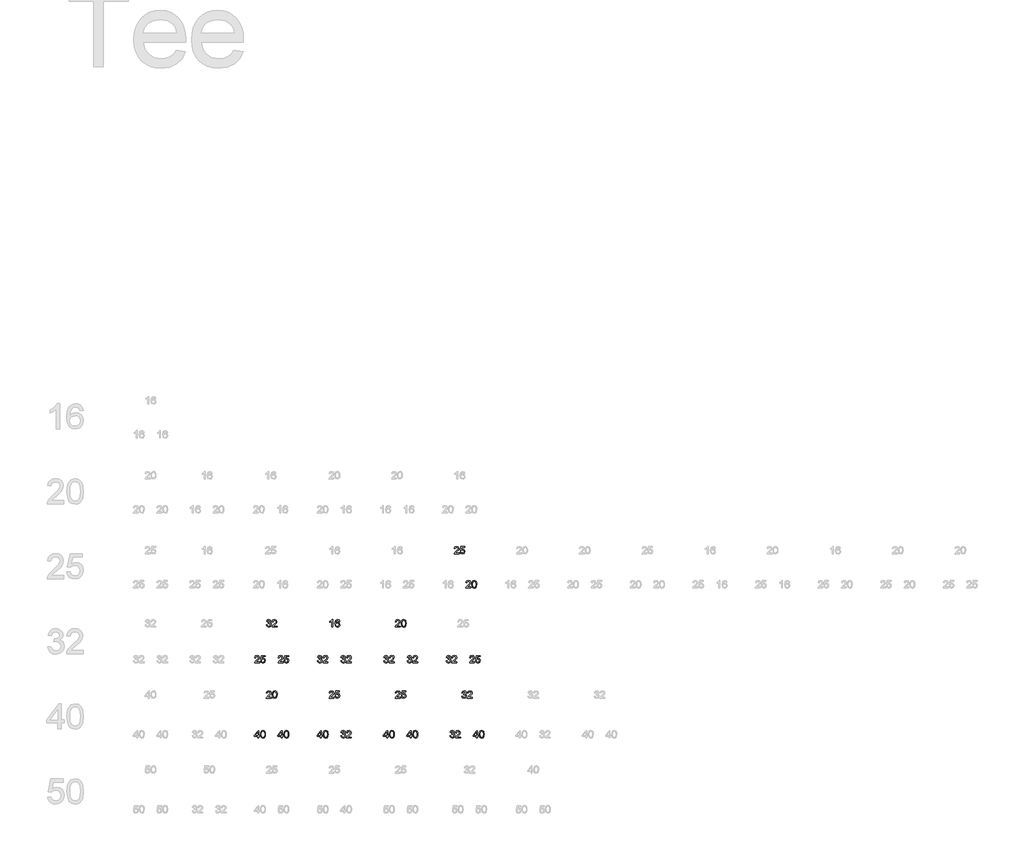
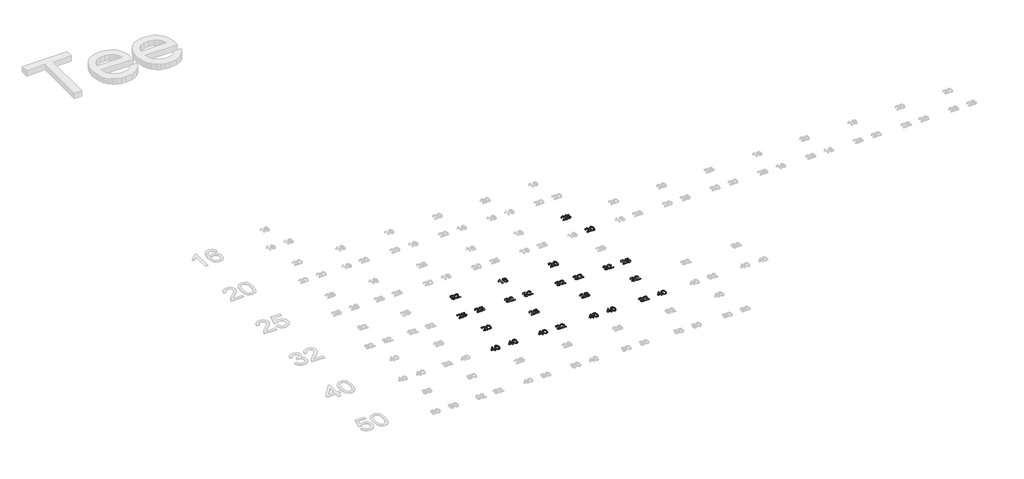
# One storey, part 18 of 26: 25 proxies.
"""IFC4 building model written with IfcOpenShell, lengths in millimetres."""

from ifc_helpers import new_model, si_unit, origin, origin_with_axes, place, context, project, spatial, polyline, outline, extrude, element, save

model = new_model("IFC4")

# Units and contexts
model_context = context("Model", 3, world=origin())
ifc_project = project(units=[si_unit("LENGTHUNIT", "METRE", prefix="MILLI")], contexts=[model_context])

# Site, building, storey
site = spatial("IfcSite", under=ifc_project)
building = spatial("IfcBuilding", under=site)
storey = spatial("IfcBuildingStorey", under=building, Name="Superpipe UFH", Elevation=0.0)

# Proxies
placement = place(None, origin())
element("IfcBuildingElementProxy", 1, Name="30mm Arial", ObjectType="30mm Arial", at=placement, inside=storey, context=model_context, shape_type="SweptSolid", body=[
    extrude(outline(polyline([(26862.5587739, 23692.297075), (26862.5587739, 23688.5299634), (26842.7814379, 23688.5299634), (26843.186108, 23691.1272103), (26845.4743341, 23695.1260876), (26850.1905812, 23699.4928469), (26856.6947349, 23705.7689137), (26858.3207733, 23710.0363449), (26856.7867054, 23713.4907568), (26852.7804705, 23714.8997448), (26848.6050098, 23713.5238662), (26847.0194384, 23709.7199663), (26843.2523268, 23710.1908553), (26846.1402005, 23716.4963527), (26852.8614045, 23718.6668565), (26859.6046815, 23716.2535506), (26862.087885, 23710.2644317), (26861.4183397, 23706.6922975), (26859.1926537, 23702.9987623), (26853.7958248, 23697.8373779), (26849.4621749, 23694.2137402), (26847.7625601, 23692.297075), (26862.5587739, 23692.297075)])), origin_with_axes(), (0.0, 0.0, 1.0), 2.0),
    extrude(outline(polyline([(26866.3258855, 23703.3556078), (26867.4332103, 23712.0265864), (26870.7220754, 23717.0261028), (26876.2145536, 23718.6668565), (26880.6144222, 23717.695648), (26883.6531275, 23714.896066), (26885.4189611, 23710.4373362), (26886.1032216, 23703.3556078), (26885.0069333, 23694.7214174), (26881.7291047, 23689.7108646), (26876.2145536, 23688.0590745), (26869.3278026, 23690.928554), (26866.3258855, 23703.3556078)]), holes=[polyline([(26870.0929972, 23703.3629655), (26871.8588308, 23694.0077263), (26876.2145536, 23691.8261861), (26880.5702764, 23694.015084), (26882.33611, 23703.3629655), (26880.6291375, 23712.6115188), (26876.1704077, 23714.8997448), (26871.9176919, 23712.8837515), (26870.0929972, 23703.3629655)])]), origin_with_axes(), (0.0, 0.0, 1.0), 2.0),
])
element("IfcBuildingElementProxy", 2, Name="30mm Arial", ObjectType="30mm Arial", at=placement, inside=storey, context=model_context, shape_type="SweptSolid", body=[
    extrude(outline(polyline([(26815.7369587, 23828.6157156), (26815.7369587, 23824.848604), (26795.9596227, 23824.848604), (26796.3642929, 23827.4458509), (26798.6525189, 23831.4447281), (26803.368766, 23835.8114874), (26809.8729197, 23842.0875543), (26811.4989581, 23846.3549854), (26809.9648902, 23849.8093973), (26805.9586553, 23851.2183854), (26801.7831946, 23849.8425067), (26800.1976232, 23846.0386069), (26796.4305116, 23846.5094959), (26799.3183853, 23852.8149932), (26806.0395893, 23854.985497), (26812.7828663, 23852.5721911), (26815.2660698, 23846.5830723), (26814.5965245, 23843.0109381), (26812.3708385, 23839.3174028), (26806.9740096, 23834.1560185), (26802.6403597, 23830.5323808), (26800.9407449, 23828.6157156), (26815.7369587, 23828.6157156)])), origin_with_axes(), (0.0, 0.0, 1.0), 2.0),
    extrude(outline(polyline([(26819.5040703, 23832.8537162), (26823.271182, 23833.3246051), (26825.1694531, 23829.4434501), (26829.1057904, 23828.1448267), (26833.8293952, 23829.9511272), (26835.5142948, 23834.7446296), (26833.936081, 23839.2180747), (26829.1646515, 23840.8588284), (26825.8573924, 23840.2039985), (26823.7420709, 23838.5043836), (26819.9749593, 23838.9752726), (26823.271182, 23854.5146081), (26837.8687395, 23854.5146081), (26837.8687395, 23850.7474964), (26826.3172449, 23850.7474964), (26824.7059218, 23842.4480786), (26830.216794, 23844.62594), (26836.6584078, 23841.9256862), (26839.2814064, 23834.9800741), (26836.919604, 23827.9903162), (26829.0910751, 23824.377715), (26822.4434475, 23826.6990504), (26819.5040703, 23832.8537162)])), origin_with_axes(), (0.0, 0.0, 1.0), 2.0),
])
element("IfcBuildingElementProxy", 3, Name="30mm Arial", ObjectType="30mm Arial", at=placement, inside=storey, context=model_context, shape_type="SweptSolid", body=[
    extrude(outline(polyline([(26017.968476, 23392.297075), (26017.968476, 23388.5299634), (25998.1911399, 23388.5299634), (25998.5958101, 23391.1272103), (26000.8840361, 23395.1260876), (26005.6002833, 23399.4928469), (26012.104437, 23405.7689137), (26013.7304754, 23410.0363449), (26012.1964075, 23413.4907568), (26008.1901725, 23414.8997448), (26004.0147119, 23413.5238662), (26002.4291405, 23409.7199663), (25998.6620289, 23410.1908553), (26001.5499025, 23416.4963527), (26008.2711066, 23418.6668565), (26015.0143836, 23416.2535506), (26017.497587, 23410.2644317), (26016.8280418, 23406.6922975), (26014.6023557, 23402.9987623), (26009.2055269, 23397.8373779), (26004.871877, 23394.2137402), (26003.1722621, 23392.297075), (26017.968476, 23392.297075)])), origin_with_axes(), (0.0, 0.0, 1.0), 2.0),
    extrude(outline(polyline([(26021.7355876, 23396.5350756), (26025.5026992, 23397.0059646), (26027.4009703, 23393.1248095), (26031.3373077, 23391.8261861), (26036.0609125, 23393.6324867), (26037.745812, 23398.4259891), (26036.1675983, 23402.8994341), (26031.3961688, 23404.5401878), (26028.0889097, 23403.8853579), (26025.9735882, 23402.1857431), (26022.2064766, 23402.656632), (26025.5026992, 23418.1959675), (26040.1002568, 23418.1959675), (26040.1002568, 23414.4288559), (26028.5487622, 23414.4288559), (26026.937439, 23406.1294381), (26032.4483113, 23408.3072995), (26038.889925, 23405.6070456), (26041.5129237, 23398.6614336), (26039.1511213, 23391.6716757), (26031.3225924, 23388.0590745), (26024.6749648, 23390.3804098), (26021.7355876, 23396.5350756)])), origin_with_axes(), (0.0, 0.0, 1.0), 2.0),
])
element("IfcBuildingElementProxy", 4, Name="30mm Arial", ObjectType="30mm Arial", at=placement, inside=storey, context=model_context, shape_type="SweptSolid", body=[
    extrude(outline(polyline([(26111.718476, 23392.297075), (26111.718476, 23388.5299634), (26091.9411399, 23388.5299634), (26092.3458101, 23391.1272103), (26094.6340361, 23395.1260876), (26099.3502833, 23399.4928469), (26105.854437, 23405.7689137), (26107.4804754, 23410.0363449), (26105.9464075, 23413.4907568), (26101.9401725, 23414.8997448), (26097.7647119, 23413.5238662), (26096.1791405, 23409.7199663), (26092.4120289, 23410.1908553), (26095.2999025, 23416.4963527), (26102.0211066, 23418.6668565), (26108.7643836, 23416.2535506), (26111.247587, 23410.2644317), (26110.5780418, 23406.6922975), (26108.3523557, 23402.9987623), (26102.9555269, 23397.8373779), (26098.621877, 23394.2137402), (26096.9222621, 23392.297075), (26111.718476, 23392.297075)])), origin_with_axes(), (0.0, 0.0, 1.0), 2.0),
    extrude(outline(polyline([(26115.4855876, 23396.5350756), (26119.2526992, 23397.0059646), (26121.1509703, 23393.1248095), (26125.0873077, 23391.8261861), (26129.8109125, 23393.6324867), (26131.495812, 23398.4259891), (26129.9175983, 23402.8994341), (26125.1461688, 23404.5401878), (26121.8389097, 23403.8853579), (26119.7235882, 23402.1857431), (26115.9564766, 23402.656632), (26119.2526992, 23418.1959675), (26133.8502568, 23418.1959675), (26133.8502568, 23414.4288559), (26122.2987622, 23414.4288559), (26120.687439, 23406.1294381), (26126.1983113, 23408.3072995), (26132.639925, 23405.6070456), (26135.2629237, 23398.6614336), (26132.9011213, 23391.6716757), (26125.0725924, 23388.0590745), (26118.4249648, 23390.3804098), (26115.4855876, 23396.5350756)])), origin_with_axes(), (0.0, 0.0, 1.0), 2.0),
])
element("IfcBuildingElementProxy", 5, Name="30mm Arial", ObjectType="30mm Arial", at=placement, inside=storey, context=model_context, shape_type="SweptSolid", body=[
    extrude(outline(polyline([(26045.5902137, 23540.3537162), (26049.3573253, 23540.8246051), (26051.4358586, 23536.8588372), (26055.3243713, 23535.6448267), (26059.9008233, 23537.3150109), (26061.6004381, 23541.4500045), (26059.9155386, 23545.3458749), (26055.6333921, 23546.8873004), (26052.9919994, 23546.4752726), (26053.4113849, 23550.2423842), (26058.2895002, 23551.2798114), (26060.1877712, 23554.6054647), (26058.8118926, 23557.5521995), (26055.2655102, 23558.7183854), (26051.6749819, 23557.541163), (26049.8282143, 23554.0094959), (26046.0611026, 23554.4803848), (26049.1439538, 23560.3885696), (26055.1330726, 23562.485497), (26059.6764153, 23561.4517486), (26062.8549157, 23558.6264149), (26063.9548829, 23554.8261939), (26062.910098, 23551.3533878), (26059.8198893, 23548.8591479), (26063.9254523, 23546.283974), (26065.3675497, 23541.3837858), (26062.4833549, 23534.6441876), (26055.1919338, 23531.877715), (26048.5847731, 23534.2395174), (26045.5902137, 23540.3537162)])), origin_with_axes(), (0.0, 0.0, 1.0), 2.0),
    extrude(outline(polyline([(26087.9702195, 23536.1157156), (26087.9702195, 23532.348604), (26068.1928835, 23532.348604), (26068.5975537, 23534.9458509), (26070.8857797, 23538.9447281), (26075.6020268, 23543.3114874), (26082.1061805, 23549.5875543), (26083.7322189, 23553.8549854), (26082.198151, 23557.3093973), (26078.1919161, 23558.7183854), (26074.0164554, 23557.3425067), (26072.430884, 23553.5386069), (26068.6637724, 23554.0094959), (26071.5516461, 23560.3149932), (26078.2728501, 23562.485497), (26085.0161271, 23560.0721911), (26087.4993306, 23554.0830723), (26086.8297853, 23550.5109381), (26084.6040993, 23546.8174028), (26079.2072704, 23541.6560185), (26074.8736205, 23538.0323808), (26073.1740057, 23536.1157156), (26087.9702195, 23536.1157156)])), origin_with_axes(), (0.0, 0.0, 1.0), 2.0),
])
element("IfcBuildingElementProxy", 6, Name="30mm Arial", ObjectType="30mm Arial", at=placement, inside=storey, context=model_context, shape_type="SweptSolid", body=[
    extrude(outline(polyline([(26249.2222275, 23396.5350756), (26252.9893391, 23397.0059646), (26255.0678724, 23393.0401967), (26258.9563851, 23391.8261861), (26263.5328371, 23393.4963703), (26265.2324519, 23397.631364), (26263.5475524, 23401.5272343), (26259.265406, 23403.0686599), (26256.6240132, 23402.656632), (26257.0433987, 23406.4237437), (26261.921514, 23407.4611709), (26263.8197851, 23410.7868241), (26262.4439064, 23413.7335589), (26258.897524, 23414.8997448), (26255.3069957, 23413.7225224), (26253.4602281, 23410.1908553), (26249.6931164, 23410.6617442), (26252.7759676, 23416.5699291), (26258.7650865, 23418.6668565), (26263.3084291, 23417.6331081), (26266.4869295, 23414.8077743), (26267.5868967, 23411.0075533), (26266.5421118, 23407.5347473), (26263.4519031, 23405.0405074), (26267.5574661, 23402.4653334), (26268.9995636, 23397.5651452), (26266.1153687, 23390.8255471), (26258.8239476, 23388.0590745), (26252.2167869, 23390.4208769), (26249.2222275, 23396.5350756)])), origin_with_axes(), (0.0, 0.0, 1.0), 2.0),
    extrude(outline(polyline([(26291.6022333, 23392.297075), (26291.6022333, 23388.5299634), (26271.8248973, 23388.5299634), (26272.2295675, 23391.1272103), (26274.5177935, 23395.1260876), (26279.2340407, 23399.4928469), (26285.7381943, 23405.7689137), (26287.3642328, 23410.0363449), (26285.8301648, 23413.4907568), (26281.8239299, 23414.8997448), (26277.6484693, 23413.5238662), (26276.0628979, 23409.7199663), (26272.2957862, 23410.1908553), (26275.1836599, 23416.4963527), (26281.9048639, 23418.6668565), (26288.6481409, 23416.2535506), (26291.1313444, 23410.2644317), (26290.4617992, 23406.6922975), (26288.2361131, 23402.9987623), (26282.8392842, 23397.8373779), (26278.5056343, 23394.2137402), (26276.8060195, 23392.297075), (26291.6022333, 23392.297075)])), origin_with_axes(), (0.0, 0.0, 1.0), 2.0),
])
element("IfcBuildingElementProxy", 7, Name="30mm Arial", ObjectType="30mm Arial", at=placement, inside=storey, context=model_context, shape_type="SweptSolid", body=[
    extrude(outline(polyline([(26342.9722275, 23396.5350756), (26346.7393391, 23397.0059646), (26348.8178724, 23393.0401967), (26352.7063851, 23391.8261861), (26357.2828371, 23393.4963703), (26358.9824519, 23397.631364), (26357.2975524, 23401.5272343), (26353.015406, 23403.0686599), (26350.3740132, 23402.656632), (26350.7933987, 23406.4237437), (26355.671514, 23407.4611709), (26357.5697851, 23410.7868241), (26356.1939064, 23413.7335589), (26352.647524, 23414.8997448), (26349.0569957, 23413.7225224), (26347.2102281, 23410.1908553), (26343.4431164, 23410.6617442), (26346.5259676, 23416.5699291), (26352.5150865, 23418.6668565), (26357.0584291, 23417.6331081), (26360.2369295, 23414.8077743), (26361.3368967, 23411.0075533), (26360.2921118, 23407.5347473), (26357.2019031, 23405.0405074), (26361.3074661, 23402.4653334), (26362.7495636, 23397.5651452), (26359.8653687, 23390.8255471), (26352.5739476, 23388.0590745), (26345.9667869, 23390.4208769), (26342.9722275, 23396.5350756)])), origin_with_axes(), (0.0, 0.0, 1.0), 2.0),
    extrude(outline(polyline([(26385.3522333, 23392.297075), (26385.3522333, 23388.5299634), (26365.5748973, 23388.5299634), (26365.9795675, 23391.1272103), (26368.2677935, 23395.1260876), (26372.9840407, 23399.4928469), (26379.4881943, 23405.7689137), (26381.1142328, 23410.0363449), (26379.5801648, 23413.4907568), (26375.5739299, 23414.8997448), (26371.3984693, 23413.5238662), (26369.8128979, 23409.7199663), (26366.0457862, 23410.1908553), (26368.9336599, 23416.4963527), (26375.6548639, 23418.6668565), (26382.3981409, 23416.2535506), (26384.8813444, 23410.2644317), (26384.2117992, 23406.6922975), (26381.9861131, 23402.9987623), (26376.5892842, 23397.8373779), (26372.2556343, 23394.2137402), (26370.5560195, 23392.297075), (26385.3522333, 23392.297075)])), origin_with_axes(), (0.0, 0.0, 1.0), 2.0),
])
element("IfcBuildingElementProxy", 8, Name="30mm Arial", ObjectType="30mm Arial", at=placement, inside=storey, context=model_context, shape_type="SweptSolid", body=[
    extrude(outline(polyline([(26310.2770809, 23532.348604), (26306.5099693, 23532.348604), (26306.5099693, 23555.8341905), (26302.9415139, 23553.292126), (26298.975746, 23551.390176), (26298.975746, 23554.9512738), (26304.4976548, 23558.4755833), (26307.8490597, 23562.485497), (26310.2770809, 23562.485497), (26310.2770809, 23532.348604)])), origin_with_axes(), (0.0, 0.0, 1.0), 2.0),
    extrude(outline(polyline([(26338.5304181, 23554.4803848), (26334.7633065, 23554.0094959), (26333.3359244, 23557.1512081), (26329.5614551, 23558.7183854), (26326.1622255, 23557.806038), (26323.5907303, 23554.3810567), (26322.5201937, 23547.6672103), (26325.8421681, 23550.6728062), (26329.9587677, 23551.6550511), (26336.3599144, 23548.9695125), (26339.0013071, 23542.0312581), (26337.757866, 23536.8330855), (26334.3365634, 23533.1542655), (26329.399587, 23531.877715), (26321.7218898, 23535.2622294), (26318.7530821, 23546.4164115), (26322.0493048, 23559.0494792), (26329.7968996, 23562.485497), (26335.7492303, 23560.3591391), (26338.5304181, 23554.4803848)]), holes=[polyline([(26322.5201937, 23542.0901192), (26323.392074, 23538.8270059), (26325.7097306, 23536.4578459), (26329.1052814, 23535.6448267), (26333.5456171, 23537.3297262), (26335.2341955, 23541.9061782), (26333.56769, 23546.2876528), (26328.950771, 23547.8879395), (26324.3927131, 23546.2876528), (26322.5201937, 23542.0901192)])]), origin_with_axes(), (0.0, 0.0, 1.0), 2.0),
])
element("IfcBuildingElementProxy", 9, Name="30mm Arial", ObjectType="30mm Arial", at=placement, inside=storey, context=model_context, shape_type="SweptSolid", body=[
    extrude(outline(polyline([(26514.2222275, 23396.5350756), (26517.9893391, 23397.0059646), (26520.0678724, 23393.0401967), (26523.9563851, 23391.8261861), (26528.5328371, 23393.4963703), (26530.2324519, 23397.631364), (26528.5475524, 23401.5272343), (26524.265406, 23403.0686599), (26521.6240132, 23402.656632), (26522.0433987, 23406.4237437), (26526.921514, 23407.4611709), (26528.8197851, 23410.7868241), (26527.4439064, 23413.7335589), (26523.897524, 23414.8997448), (26520.3069957, 23413.7225224), (26518.4602281, 23410.1908553), (26514.6931164, 23410.6617442), (26517.7759676, 23416.5699291), (26523.7650865, 23418.6668565), (26528.3084291, 23417.6331081), (26531.4869295, 23414.8077743), (26532.5868967, 23411.0075533), (26531.5421118, 23407.5347473), (26528.4519031, 23405.0405074), (26532.5574661, 23402.4653334), (26533.9995636, 23397.5651452), (26531.1153687, 23390.8255471), (26523.8239476, 23388.0590745), (26517.2167869, 23390.4208769), (26514.2222275, 23396.5350756)])), origin_with_axes(), (0.0, 0.0, 1.0), 2.0),
    extrude(outline(polyline([(26556.6022333, 23392.297075), (26556.6022333, 23388.5299634), (26536.8248973, 23388.5299634), (26537.2295675, 23391.1272103), (26539.5177935, 23395.1260876), (26544.2340407, 23399.4928469), (26550.7381943, 23405.7689137), (26552.3642328, 23410.0363449), (26550.8301648, 23413.4907568), (26546.8239299, 23414.8997448), (26542.6484693, 23413.5238662), (26541.0628979, 23409.7199663), (26537.2957862, 23410.1908553), (26540.1836599, 23416.4963527), (26546.9048639, 23418.6668565), (26553.6481409, 23416.2535506), (26556.1313444, 23410.2644317), (26555.4617992, 23406.6922975), (26553.2361131, 23402.9987623), (26547.8392842, 23397.8373779), (26543.5056343, 23394.2137402), (26541.8060195, 23392.297075), (26556.6022333, 23392.297075)])), origin_with_axes(), (0.0, 0.0, 1.0), 2.0),
])
element("IfcBuildingElementProxy", 10, Name="30mm Arial", ObjectType="30mm Arial", at=placement, inside=storey, context=model_context, shape_type="SweptSolid", body=[
    extrude(outline(polyline([(26607.9722275, 23396.5350756), (26611.7393391, 23397.0059646), (26613.8178724, 23393.0401967), (26617.7063851, 23391.8261861), (26622.2828371, 23393.4963703), (26623.9824519, 23397.631364), (26622.2975524, 23401.5272343), (26618.015406, 23403.0686599), (26615.3740132, 23402.656632), (26615.7933987, 23406.4237437), (26620.671514, 23407.4611709), (26622.5697851, 23410.7868241), (26621.1939064, 23413.7335589), (26617.647524, 23414.8997448), (26614.0569957, 23413.7225224), (26612.2102281, 23410.1908553), (26608.4431164, 23410.6617442), (26611.5259676, 23416.5699291), (26617.5150865, 23418.6668565), (26622.0584291, 23417.6331081), (26625.2369295, 23414.8077743), (26626.3368967, 23411.0075533), (26625.2921118, 23407.5347473), (26622.2019031, 23405.0405074), (26626.3074661, 23402.4653334), (26627.7495636, 23397.5651452), (26624.8653687, 23390.8255471), (26617.5739476, 23388.0590745), (26610.9667869, 23390.4208769), (26607.9722275, 23396.5350756)])), origin_with_axes(), (0.0, 0.0, 1.0), 2.0),
    extrude(outline(polyline([(26650.3522333, 23392.297075), (26650.3522333, 23388.5299634), (26630.5748973, 23388.5299634), (26630.9795675, 23391.1272103), (26633.2677935, 23395.1260876), (26637.9840407, 23399.4928469), (26644.4881943, 23405.7689137), (26646.1142328, 23410.0363449), (26644.5801648, 23413.4907568), (26640.5739299, 23414.8997448), (26636.3984693, 23413.5238662), (26634.8128979, 23409.7199663), (26631.0457862, 23410.1908553), (26633.9336599, 23416.4963527), (26640.6548639, 23418.6668565), (26647.3981409, 23416.2535506), (26649.8813444, 23410.2644317), (26649.2117992, 23406.6922975), (26646.9861131, 23402.9987623), (26641.5892842, 23397.8373779), (26637.2556343, 23394.2137402), (26635.5560195, 23392.297075), (26650.3522333, 23392.297075)])), origin_with_axes(), (0.0, 0.0, 1.0), 2.0),
])
element("IfcBuildingElementProxy", 11, Name="30mm Arial", ObjectType="30mm Arial", at=placement, inside=storey, context=model_context, shape_type="SweptSolid", body=[
    extrude(outline(polyline([(26580.4568594, 23536.1157156), (26580.4568594, 23532.348604), (26560.6795233, 23532.348604), (26561.0841935, 23534.9458509), (26563.3724196, 23538.9447281), (26568.0886667, 23543.3114874), (26574.5928204, 23549.5875543), (26576.2188588, 23553.8549854), (26574.6847909, 23557.3093973), (26570.678556, 23558.7183854), (26566.5030953, 23557.3425067), (26564.9175239, 23553.5386069), (26561.1504123, 23554.0094959), (26564.038286, 23560.3149932), (26570.75949, 23562.485497), (26577.502767, 23560.0721911), (26579.9859705, 23554.0830723), (26579.3164252, 23550.5109381), (26577.0907392, 23546.8174028), (26571.6939103, 23541.6560185), (26567.3602604, 23538.0323808), (26565.6606456, 23536.1157156), (26580.4568594, 23536.1157156)])), origin_with_axes(), (0.0, 0.0, 1.0), 2.0),
    extrude(outline(polyline([(26584.223971, 23547.1742484), (26585.3312958, 23555.845227), (26588.6201609, 23560.8447433), (26594.1126391, 23562.485497), (26598.5125077, 23561.5142886), (26601.551213, 23558.7147066), (26603.3170466, 23554.2559768), (26604.0013071, 23547.1742484), (26602.9050188, 23538.540058), (26599.6271902, 23533.5295052), (26594.1126391, 23531.877715), (26587.2258881, 23534.7471946), (26584.223971, 23547.1742484)]), holes=[polyline([(26587.9910827, 23547.181606), (26589.7569162, 23537.8263669), (26594.1126391, 23535.6448267), (26598.4683619, 23537.8337245), (26600.2341955, 23547.181606), (26598.527223, 23556.4301594), (26594.0684932, 23558.7183854), (26589.8157774, 23556.7023921), (26587.9910827, 23547.181606)])]), origin_with_axes(), (0.0, 0.0, 1.0), 2.0),
])
element("IfcBuildingElementProxy", 12, Name="30mm Arial", ObjectType="30mm Arial", at=placement, inside=storey, context=model_context, shape_type="SweptSolid", body=[
    extrude(outline(polyline([(26010.9051417, 23088.5299634), (26010.9051417, 23095.5932977), (25997.249362, 23095.5932977), (25997.249362, 23099.3604094), (26011.8469196, 23118.1959675), (26014.6722533, 23118.1959675), (26014.6722533, 23099.3604094), (26018.4393649, 23099.3604094), (26018.4393649, 23095.5932977), (26014.6722533, 23095.5932977), (26014.6722533, 23088.5299634), (26010.9051417, 23088.5299634)]), holes=[polyline([(26010.9051417, 23099.3604094), (26010.9051417, 23111.0001957), (26001.8846752, 23099.3604094), (26010.9051417, 23099.3604094)])]), origin_with_axes(), (0.0, 0.0, 1.0), 2.0),
    extrude(outline(polyline([(26021.7355876, 23103.3556078), (26022.8429124, 23112.0265864), (26026.1317775, 23117.0261028), (26031.6242556, 23118.6668565), (26036.0241243, 23117.695648), (26039.0628296, 23114.896066), (26040.8286632, 23110.4373362), (26041.5129237, 23103.3556078), (26040.4166353, 23094.7214174), (26037.1388068, 23089.7108646), (26031.6242556, 23088.0590745), (26024.7375047, 23090.928554), (26021.7355876, 23103.3556078)]), holes=[polyline([(26025.5026992, 23103.3629655), (26027.2685328, 23094.0077263), (26031.6242556, 23091.8261861), (26035.9799785, 23094.015084), (26037.745812, 23103.3629655), (26036.0388396, 23112.6115188), (26031.5801098, 23114.8997448), (26027.3273939, 23112.8837515), (26025.5026992, 23103.3629655)])]), origin_with_axes(), (0.0, 0.0, 1.0), 2.0),
])
element("IfcBuildingElementProxy", 13, Name="30mm Arial", ObjectType="30mm Arial", at=placement, inside=storey, context=model_context, shape_type="SweptSolid", body=[
    extrude(outline(polyline([(26104.6551417, 23088.5299634), (26104.6551417, 23095.5932977), (26090.999362, 23095.5932977), (26090.999362, 23099.3604094), (26105.5969196, 23118.1959675), (26108.4222533, 23118.1959675), (26108.4222533, 23099.3604094), (26112.1893649, 23099.3604094), (26112.1893649, 23095.5932977), (26108.4222533, 23095.5932977), (26108.4222533, 23088.5299634), (26104.6551417, 23088.5299634)]), holes=[polyline([(26104.6551417, 23099.3604094), (26104.6551417, 23111.0001957), (26095.6346752, 23099.3604094), (26104.6551417, 23099.3604094)])]), origin_with_axes(), (0.0, 0.0, 1.0), 2.0),
    extrude(outline(polyline([(26115.4855876, 23103.3556078), (26116.5929124, 23112.0265864), (26119.8817775, 23117.0261028), (26125.3742556, 23118.6668565), (26129.7741243, 23117.695648), (26132.8128296, 23114.896066), (26134.5786632, 23110.4373362), (26135.2629237, 23103.3556078), (26134.1666353, 23094.7214174), (26130.8888067, 23089.7108646), (26125.3742556, 23088.0590745), (26118.4875047, 23090.928554), (26115.4855876, 23103.3556078)]), holes=[polyline([(26119.2526992, 23103.3629655), (26121.0185328, 23094.0077263), (26125.3742556, 23091.8261861), (26129.7299785, 23094.015084), (26131.495812, 23103.3629655), (26129.7888396, 23112.6115188), (26125.3301098, 23114.8997448), (26121.0773939, 23112.8837515), (26119.2526992, 23103.3629655)])]), origin_with_axes(), (0.0, 0.0, 1.0), 2.0),
])
element("IfcBuildingElementProxy", 14, Name="30mm Arial", ObjectType="30mm Arial", at=placement, inside=storey, context=model_context, shape_type="SweptSolid", body=[
    extrude(outline(polyline([(26064.8966608, 23251.1157156), (26064.8966608, 23247.348604), (26045.1193247, 23247.348604), (26045.5239949, 23249.9458509), (26047.8122209, 23253.9447281), (26052.5284681, 23258.3114874), (26059.0326218, 23264.5875543), (26060.6586602, 23268.8549854), (26059.1245923, 23272.3093973), (26055.1183574, 23273.7183854), (26050.9428967, 23272.3425067), (26049.3573253, 23268.5386069), (26045.5902137, 23269.0094959), (26048.4780873, 23275.3149932), (26055.1992914, 23277.485497), (26061.9425684, 23275.0721911), (26064.4257718, 23269.0830723), (26063.7562266, 23265.5109381), (26061.5305405, 23261.8174028), (26056.1337117, 23256.6560185), (26051.8000618, 23253.0323808), (26050.1004469, 23251.1157156), (26064.8966608, 23251.1157156)])), origin_with_axes(), (0.0, 0.0, 1.0), 2.0),
    extrude(outline(polyline([(26068.6637724, 23262.1742484), (26069.7710972, 23270.845227), (26073.0599623, 23275.8447433), (26078.5524404, 23277.485497), (26082.9523091, 23276.5142886), (26085.9910144, 23273.7147066), (26087.756848, 23269.2559768), (26088.4411085, 23262.1742484), (26087.3448201, 23253.540058), (26084.0669916, 23248.5295052), (26078.5524404, 23246.877715), (26071.6656895, 23249.7471946), (26068.6637724, 23262.1742484)]), holes=[polyline([(26072.430884, 23262.181606), (26074.1967176, 23252.8263669), (26078.5524404, 23250.6448267), (26082.9081633, 23252.8337245), (26084.6739968, 23262.181606), (26082.9670244, 23271.4301594), (26078.5082946, 23273.7183854), (26074.2555787, 23271.7023921), (26072.430884, 23262.181606)])]), origin_with_axes(), (0.0, 0.0, 1.0), 2.0),
])
element("IfcBuildingElementProxy", 15, Name="30mm Arial", ObjectType="30mm Arial", at=placement, inside=storey, context=model_context, shape_type="SweptSolid", body=[
    extrude(outline(polyline([(26261.4653403, 23088.5299634), (26261.4653403, 23095.5932977), (26247.8095606, 23095.5932977), (26247.8095606, 23099.3604094), (26262.4071182, 23118.1959675), (26265.2324519, 23118.1959675), (26265.2324519, 23099.3604094), (26268.9995636, 23099.3604094), (26268.9995636, 23095.5932977), (26265.2324519, 23095.5932977), (26265.2324519, 23088.5299634), (26261.4653403, 23088.5299634)]), holes=[polyline([(26261.4653403, 23099.3604094), (26261.4653403, 23111.0001957), (26252.4448738, 23099.3604094), (26261.4653403, 23099.3604094)])]), origin_with_axes(), (0.0, 0.0, 1.0), 2.0),
    extrude(outline(polyline([(26272.2957862, 23103.3556078), (26273.403111, 23112.0265864), (26276.6919761, 23117.0261028), (26282.1844543, 23118.6668565), (26286.5843229, 23117.695648), (26289.6230282, 23114.896066), (26291.3888618, 23110.4373362), (26292.0731223, 23103.3556078), (26290.9768339, 23094.7214174), (26287.6990054, 23089.7108646), (26282.1844543, 23088.0590745), (26275.2977033, 23090.928554), (26272.2957862, 23103.3556078)]), holes=[polyline([(26276.0628979, 23103.3629655), (26277.8287314, 23094.0077263), (26282.1844543, 23091.8261861), (26286.5401771, 23094.015084), (26288.3060107, 23103.3629655), (26286.5990382, 23112.6115188), (26282.1403084, 23114.8997448), (26277.8875926, 23112.8837515), (26276.0628979, 23103.3629655)])]), origin_with_axes(), (0.0, 0.0, 1.0), 2.0),
])
element("IfcBuildingElementProxy", 16, Name="30mm Arial", ObjectType="30mm Arial", at=placement, inside=storey, context=model_context, shape_type="SweptSolid", body=[
    extrude(outline(polyline([(26342.9722275, 23096.5350756), (26346.7393391, 23097.0059646), (26348.8178724, 23093.0401967), (26352.7063851, 23091.8261861), (26357.2828371, 23093.4963703), (26358.9824519, 23097.631364), (26357.2975524, 23101.5272343), (26353.015406, 23103.0686599), (26350.3740132, 23102.656632), (26350.7933987, 23106.4237437), (26355.671514, 23107.4611709), (26357.5697851, 23110.7868241), (26356.1939064, 23113.7335589), (26352.647524, 23114.8997448), (26349.0569957, 23113.7225224), (26347.2102281, 23110.1908553), (26343.4431164, 23110.6617442), (26346.5259676, 23116.5699291), (26352.5150865, 23118.6668565), (26357.0584291, 23117.6331081), (26360.2369295, 23114.8077743), (26361.3368967, 23111.0075533), (26360.2921118, 23107.5347473), (26357.2019031, 23105.0405074), (26361.3074661, 23102.4653334), (26362.7495636, 23097.5651452), (26359.8653687, 23090.8255471), (26352.5739476, 23088.0590745), (26345.9667869, 23090.4208769), (26342.9722275, 23096.5350756)])), origin_with_axes(), (0.0, 0.0, 1.0), 2.0),
    extrude(outline(polyline([(26385.3522333, 23092.297075), (26385.3522333, 23088.5299634), (26365.5748973, 23088.5299634), (26365.9795675, 23091.1272103), (26368.2677935, 23095.1260876), (26372.9840407, 23099.4928469), (26379.4881943, 23105.7689137), (26381.1142328, 23110.0363449), (26379.5801648, 23113.4907568), (26375.5739299, 23114.8997448), (26371.3984693, 23113.5238662), (26369.8128979, 23109.7199663), (26366.0457862, 23110.1908553), (26368.9336599, 23116.4963527), (26375.6548639, 23118.6668565), (26382.3981409, 23116.2535506), (26384.8813444, 23110.2644317), (26384.2117992, 23106.6922975), (26381.9861131, 23102.9987623), (26376.5892842, 23097.8373779), (26372.2556343, 23094.2137402), (26370.5560195, 23092.297075), (26385.3522333, 23092.297075)])), origin_with_axes(), (0.0, 0.0, 1.0), 2.0),
])
element("IfcBuildingElementProxy", 17, Name="30mm Arial", ObjectType="30mm Arial", at=placement, inside=storey, context=model_context, shape_type="SweptSolid", body=[
    extrude(outline(polyline([(26315.4568594, 23251.1157156), (26315.4568594, 23247.348604), (26295.6795233, 23247.348604), (26296.0841935, 23249.9458509), (26298.3724196, 23253.9447281), (26303.0886667, 23258.3114874), (26309.5928204, 23264.5875543), (26311.2188588, 23268.8549854), (26309.6847909, 23272.3093973), (26305.678556, 23273.7183854), (26301.5030953, 23272.3425067), (26299.9175239, 23268.5386069), (26296.1504123, 23269.0094959), (26299.038286, 23275.3149932), (26305.75949, 23277.485497), (26312.502767, 23275.0721911), (26314.9859705, 23269.0830723), (26314.3164252, 23265.5109381), (26312.0907392, 23261.8174028), (26306.6939103, 23256.6560185), (26302.3602604, 23253.0323808), (26300.6606456, 23251.1157156), (26315.4568594, 23251.1157156)])), origin_with_axes(), (0.0, 0.0, 1.0), 2.0),
    extrude(outline(polyline([(26319.223971, 23255.3537162), (26322.9910827, 23255.8246051), (26324.8893538, 23251.9434501), (26328.8256911, 23250.6448267), (26333.5492959, 23252.4511272), (26335.2341955, 23257.2446296), (26333.6559817, 23261.7180747), (26328.8845522, 23263.3588284), (26325.5772931, 23262.7039985), (26323.4619716, 23261.0043836), (26319.69486, 23261.4752726), (26322.9910827, 23277.0146081), (26337.5886402, 23277.0146081), (26337.5886402, 23273.2474964), (26326.0371456, 23273.2474964), (26324.4258225, 23264.9480786), (26329.9366947, 23267.12594), (26336.3783085, 23264.4256862), (26339.0013071, 23257.4800741), (26336.6395047, 23250.4903162), (26328.8109758, 23246.877715), (26322.1633482, 23249.1990504), (26319.223971, 23255.3537162)])), origin_with_axes(), (0.0, 0.0, 1.0), 2.0),
])
element("IfcBuildingElementProxy", 18, Name="30mm Arial", ObjectType="30mm Arial", at=placement, inside=storey, context=model_context, shape_type="SweptSolid", body=[
    extrude(outline(polyline([(26526.4653403, 23088.5299634), (26526.4653403, 23095.5932977), (26512.8095606, 23095.5932977), (26512.8095606, 23099.3604094), (26527.4071182, 23118.1959675), (26530.2324519, 23118.1959675), (26530.2324519, 23099.3604094), (26533.9995636, 23099.3604094), (26533.9995636, 23095.5932977), (26530.2324519, 23095.5932977), (26530.2324519, 23088.5299634), (26526.4653403, 23088.5299634)]), holes=[polyline([(26526.4653403, 23099.3604094), (26526.4653403, 23111.0001957), (26517.4448738, 23099.3604094), (26526.4653403, 23099.3604094)])]), origin_with_axes(), (0.0, 0.0, 1.0), 2.0),
    extrude(outline(polyline([(26537.2957862, 23103.3556078), (26538.403111, 23112.0265864), (26541.6919761, 23117.0261028), (26547.1844543, 23118.6668565), (26551.5843229, 23117.695648), (26554.6230282, 23114.896066), (26556.3888618, 23110.4373362), (26557.0731223, 23103.3556078), (26555.9768339, 23094.7214174), (26552.6990054, 23089.7108646), (26547.1844543, 23088.0590745), (26540.2977033, 23090.928554), (26537.2957862, 23103.3556078)]), holes=[polyline([(26541.0628979, 23103.3629655), (26542.8287314, 23094.0077263), (26547.1844543, 23091.8261861), (26551.5401771, 23094.015084), (26553.3060107, 23103.3629655), (26551.5990382, 23112.6115188), (26547.1403084, 23114.8997448), (26542.8875926, 23112.8837515), (26541.0628979, 23103.3629655)])]), origin_with_axes(), (0.0, 0.0, 1.0), 2.0),
])
element("IfcBuildingElementProxy", 19, Name="30mm Arial", ObjectType="30mm Arial", at=placement, inside=storey, context=model_context, shape_type="SweptSolid", body=[
    extrude(outline(polyline([(26620.2153403, 23088.5299634), (26620.2153403, 23095.5932977), (26606.5595606, 23095.5932977), (26606.5595606, 23099.3604094), (26621.1571182, 23118.1959675), (26623.9824519, 23118.1959675), (26623.9824519, 23099.3604094), (26627.7495636, 23099.3604094), (26627.7495636, 23095.5932977), (26623.9824519, 23095.5932977), (26623.9824519, 23088.5299634), (26620.2153403, 23088.5299634)]), holes=[polyline([(26620.2153403, 23099.3604094), (26620.2153403, 23111.0001957), (26611.1948738, 23099.3604094), (26620.2153403, 23099.3604094)])]), origin_with_axes(), (0.0, 0.0, 1.0), 2.0),
    extrude(outline(polyline([(26631.0457862, 23103.3556078), (26632.153111, 23112.0265864), (26635.4419761, 23117.0261028), (26640.9344543, 23118.6668565), (26645.3343229, 23117.695648), (26648.3730282, 23114.896066), (26650.1388618, 23110.4373362), (26650.8231223, 23103.3556078), (26649.7268339, 23094.7214174), (26646.4490054, 23089.7108646), (26640.9344543, 23088.0590745), (26634.0477033, 23090.928554), (26631.0457862, 23103.3556078)]), holes=[polyline([(26634.8128979, 23103.3629655), (26636.5787314, 23094.0077263), (26640.9344543, 23091.8261861), (26645.2901771, 23094.015084), (26647.0560107, 23103.3629655), (26645.3490382, 23112.6115188), (26640.8903084, 23114.8997448), (26636.6375926, 23112.8837515), (26634.8128979, 23103.3629655)])]), origin_with_axes(), (0.0, 0.0, 1.0), 2.0),
])
element("IfcBuildingElementProxy", 20, Name="30mm Arial", ObjectType="30mm Arial", at=placement, inside=storey, context=model_context, shape_type="SweptSolid", body=[
    extrude(outline(polyline([(26580.4568594, 23251.1157156), (26580.4568594, 23247.348604), (26560.6795233, 23247.348604), (26561.0841935, 23249.9458509), (26563.3724196, 23253.9447281), (26568.0886667, 23258.3114874), (26574.5928204, 23264.5875543), (26576.2188588, 23268.8549854), (26574.6847909, 23272.3093973), (26570.678556, 23273.7183854), (26566.5030953, 23272.3425067), (26564.9175239, 23268.5386069), (26561.1504123, 23269.0094959), (26564.038286, 23275.3149932), (26570.75949, 23277.485497), (26577.502767, 23275.0721911), (26579.9859705, 23269.0830723), (26579.3164252, 23265.5109381), (26577.0907392, 23261.8174028), (26571.6939103, 23256.6560185), (26567.3602604, 23253.0323808), (26565.6606456, 23251.1157156), (26580.4568594, 23251.1157156)])), origin_with_axes(), (0.0, 0.0, 1.0), 2.0),
    extrude(outline(polyline([(26584.223971, 23255.3537162), (26587.9910827, 23255.8246051), (26589.8893538, 23251.9434501), (26593.8256911, 23250.6448267), (26598.5492959, 23252.4511272), (26600.2341955, 23257.2446296), (26598.6559817, 23261.7180747), (26593.8845522, 23263.3588284), (26590.5772931, 23262.7039985), (26588.4619716, 23261.0043836), (26584.69486, 23261.4752726), (26587.9910827, 23277.0146081), (26602.5886402, 23277.0146081), (26602.5886402, 23273.2474964), (26591.0371456, 23273.2474964), (26589.4258225, 23264.9480786), (26594.9366947, 23267.12594), (26601.3783085, 23264.4256862), (26604.0013071, 23257.4800741), (26601.6395047, 23250.4903162), (26593.8109758, 23246.877715), (26587.1633482, 23249.1990504), (26584.223971, 23255.3537162)])), origin_with_axes(), (0.0, 0.0, 1.0), 2.0),
])
element("IfcBuildingElementProxy", 21, Name="30mm Arial", ObjectType="30mm Arial", at=placement, inside=storey, context=model_context, shape_type="SweptSolid", body=[
    extrude(outline(polyline([(26779.2222275, 23096.5350756), (26782.9893391, 23097.0059646), (26785.0678724, 23093.0401967), (26788.9563851, 23091.8261861), (26793.5328371, 23093.4963703), (26795.2324519, 23097.631364), (26793.5475524, 23101.5272343), (26789.265406, 23103.0686599), (26786.6240132, 23102.656632), (26787.0433987, 23106.4237437), (26791.921514, 23107.4611709), (26793.8197851, 23110.7868241), (26792.4439064, 23113.7335589), (26788.897524, 23114.8997448), (26785.3069957, 23113.7225224), (26783.4602281, 23110.1908553), (26779.6931164, 23110.6617442), (26782.7759676, 23116.5699291), (26788.7650865, 23118.6668565), (26793.3084291, 23117.6331081), (26796.4869295, 23114.8077743), (26797.5868967, 23111.0075533), (26796.5421118, 23107.5347473), (26793.4519031, 23105.0405074), (26797.5574661, 23102.4653334), (26798.9995636, 23097.5651452), (26796.1153687, 23090.8255471), (26788.8239476, 23088.0590745), (26782.2167869, 23090.4208769), (26779.2222275, 23096.5350756)])), origin_with_axes(), (0.0, 0.0, 1.0), 2.0),
    extrude(outline(polyline([(26821.6022333, 23092.297075), (26821.6022333, 23088.5299634), (26801.8248973, 23088.5299634), (26802.2295675, 23091.1272103), (26804.5177935, 23095.1260876), (26809.2340407, 23099.4928469), (26815.7381943, 23105.7689137), (26817.3642328, 23110.0363449), (26815.8301648, 23113.4907568), (26811.8239299, 23114.8997448), (26807.6484693, 23113.5238662), (26806.0628979, 23109.7199663), (26802.2957862, 23110.1908553), (26805.1836599, 23116.4963527), (26811.9048639, 23118.6668565), (26818.6481409, 23116.2535506), (26821.1313444, 23110.2644317), (26820.4617992, 23106.6922975), (26818.2361131, 23102.9987623), (26812.8392842, 23097.8373779), (26808.5056343, 23094.2137402), (26806.8060195, 23092.297075), (26821.6022333, 23092.297075)])), origin_with_axes(), (0.0, 0.0, 1.0), 2.0),
])
element("IfcBuildingElementProxy", 22, Name="30mm Arial", ObjectType="30mm Arial", at=placement, inside=storey, context=model_context, shape_type="SweptSolid", body=[
    extrude(outline(polyline([(26885.2153403, 23088.5299634), (26885.2153403, 23095.5932977), (26871.5595606, 23095.5932977), (26871.5595606, 23099.3604094), (26886.1571182, 23118.1959675), (26888.9824519, 23118.1959675), (26888.9824519, 23099.3604094), (26892.7495636, 23099.3604094), (26892.7495636, 23095.5932977), (26888.9824519, 23095.5932977), (26888.9824519, 23088.5299634), (26885.2153403, 23088.5299634)]), holes=[polyline([(26885.2153403, 23099.3604094), (26885.2153403, 23111.0001957), (26876.1948738, 23099.3604094), (26885.2153403, 23099.3604094)])]), origin_with_axes(), (0.0, 0.0, 1.0), 2.0),
    extrude(outline(polyline([(26896.0457862, 23103.3556078), (26897.153111, 23112.0265864), (26900.4419761, 23117.0261028), (26905.9344543, 23118.6668565), (26910.3343229, 23117.695648), (26913.3730282, 23114.896066), (26915.1388618, 23110.4373362), (26915.8231223, 23103.3556078), (26914.7268339, 23094.7214174), (26911.4490054, 23089.7108646), (26905.9344543, 23088.0590745), (26899.0477033, 23090.928554), (26896.0457862, 23103.3556078)]), holes=[polyline([(26899.8128979, 23103.3629655), (26901.5787314, 23094.0077263), (26905.9344543, 23091.8261861), (26910.2901771, 23094.015084), (26912.0560107, 23103.3629655), (26910.3490382, 23112.6115188), (26905.8903084, 23114.8997448), (26901.6375926, 23112.8837515), (26899.8128979, 23103.3629655)])]), origin_with_axes(), (0.0, 0.0, 1.0), 2.0),
])
element("IfcBuildingElementProxy", 23, Name="30mm Arial", ObjectType="30mm Arial", at=placement, inside=storey, context=model_context, shape_type="SweptSolid", body=[
    extrude(outline(polyline([(26826.1504123, 23255.3537162), (26829.9175239, 23255.8246051), (26831.9960572, 23251.8588372), (26835.8845699, 23250.6448267), (26840.4610219, 23252.3150109), (26842.1606367, 23256.4500045), (26840.4757372, 23260.3458749), (26836.1935908, 23261.8873004), (26833.552198, 23261.4752726), (26833.9715835, 23265.2423842), (26838.8496988, 23266.2798114), (26840.7479699, 23269.6054647), (26839.3720912, 23272.5521995), (26835.8257088, 23273.7183854), (26832.2351805, 23272.541163), (26830.3884129, 23269.0094959), (26826.6213013, 23269.4803848), (26829.7041524, 23275.3885696), (26835.6932713, 23277.485497), (26840.2366139, 23276.4517486), (26843.4151143, 23273.6264149), (26844.5150815, 23269.8261939), (26843.4702966, 23266.3533878), (26840.3800879, 23263.8591479), (26844.4856509, 23261.283974), (26845.9277484, 23256.3837858), (26843.0435535, 23249.6441876), (26835.7521324, 23246.877715), (26829.1449717, 23249.2395174), (26826.1504123, 23255.3537162)])), origin_with_axes(), (0.0, 0.0, 1.0), 2.0),
    extrude(outline(polyline([(26868.5304181, 23251.1157156), (26868.5304181, 23247.348604), (26848.7530821, 23247.348604), (26849.1577523, 23249.9458509), (26851.4459783, 23253.9447281), (26856.1622255, 23258.3114874), (26862.6663791, 23264.5875543), (26864.2924176, 23268.8549854), (26862.7583496, 23272.3093973), (26858.7521147, 23273.7183854), (26854.5766541, 23272.3425067), (26852.9910827, 23268.5386069), (26849.223971, 23269.0094959), (26852.1118447, 23275.3149932), (26858.8330488, 23277.485497), (26865.5763257, 23275.0721911), (26868.0595292, 23269.0830723), (26867.389984, 23265.5109381), (26865.1642979, 23261.8174028), (26859.767469, 23256.6560185), (26855.4338191, 23253.0323808), (26853.7342043, 23251.1157156), (26868.5304181, 23251.1157156)])), origin_with_axes(), (0.0, 0.0, 1.0), 2.0),
])
element("IfcBuildingElementProxy", 24, Name="30mm Arial", ObjectType="30mm Arial", at=placement, inside=storey, context=model_context, shape_type="SweptSolid", body=[
    extrude(outline(polyline([(26764.2222275, 23396.5350756), (26767.9893391, 23397.0059646), (26770.0678724, 23393.0401967), (26773.9563851, 23391.8261861), (26778.5328371, 23393.4963703), (26780.2324519, 23397.631364), (26778.5475524, 23401.5272343), (26774.265406, 23403.0686599), (26771.6240132, 23402.656632), (26772.0433987, 23406.4237437), (26776.921514, 23407.4611709), (26778.8197851, 23410.7868241), (26777.4439064, 23413.7335589), (26773.897524, 23414.8997448), (26770.3069957, 23413.7225224), (26768.4602281, 23410.1908553), (26764.6931164, 23410.6617442), (26767.7759676, 23416.5699291), (26773.7650865, 23418.6668565), (26778.3084291, 23417.6331081), (26781.4869295, 23414.8077743), (26782.5868967, 23411.0075533), (26781.5421118, 23407.5347473), (26778.4519031, 23405.0405074), (26782.5574661, 23402.4653334), (26783.9995636, 23397.5651452), (26781.1153687, 23390.8255471), (26773.8239476, 23388.0590745), (26767.2167869, 23390.4208769), (26764.2222275, 23396.5350756)])), origin_with_axes(), (0.0, 0.0, 1.0), 2.0),
    extrude(outline(polyline([(26806.6022333, 23392.297075), (26806.6022333, 23388.5299634), (26786.8248973, 23388.5299634), (26787.2295675, 23391.1272103), (26789.5177935, 23395.1260876), (26794.2340407, 23399.4928469), (26800.7381943, 23405.7689137), (26802.3642328, 23410.0363449), (26800.8301648, 23413.4907568), (26796.8239299, 23414.8997448), (26792.6484693, 23413.5238662), (26791.0628979, 23409.7199663), (26787.2957862, 23410.1908553), (26790.1836599, 23416.4963527), (26796.9048639, 23418.6668565), (26803.6481409, 23416.2535506), (26806.1313444, 23410.2644317), (26805.4617992, 23406.6922975), (26803.2361131, 23402.9987623), (26797.8392842, 23397.8373779), (26793.5056343, 23394.2137402), (26791.8060195, 23392.297075), (26806.6022333, 23392.297075)])), origin_with_axes(), (0.0, 0.0, 1.0), 2.0),
])
element("IfcBuildingElementProxy", 25, Name="30mm Arial", ObjectType="30mm Arial", at=placement, inside=storey, context=model_context, shape_type="SweptSolid", body=[
    extrude(outline(polyline([(26877.2786746, 23392.297075), (26877.2786746, 23388.5299634), (26857.5013385, 23388.5299634), (26857.9060087, 23391.1272103), (26860.1942347, 23395.1260876), (26864.9104819, 23399.4928469), (26871.4146356, 23405.7689137), (26873.040674, 23410.0363449), (26871.5066061, 23413.4907568), (26867.5003712, 23414.8997448), (26863.3249105, 23413.5238662), (26861.7393391, 23409.7199663), (26857.9722275, 23410.1908553), (26860.8601012, 23416.4963527), (26867.5813052, 23418.6668565), (26874.3245822, 23416.2535506), (26876.8077856, 23410.2644317), (26876.1382404, 23406.6922975), (26873.9125543, 23402.9987623), (26868.5157255, 23397.8373779), (26864.1820756, 23394.2137402), (26862.4824608, 23392.297075), (26877.2786746, 23392.297075)])), origin_with_axes(), (0.0, 0.0, 1.0), 2.0),
    extrude(outline(polyline([(26881.0457862, 23396.5350756), (26884.8128979, 23397.0059646), (26886.711169, 23393.1248095), (26890.6475063, 23391.8261861), (26895.3711111, 23393.6324867), (26897.0560107, 23398.4259891), (26895.4777969, 23402.8994341), (26890.7063674, 23404.5401878), (26887.3991083, 23403.8853579), (26885.2837868, 23402.1857431), (26881.5166752, 23402.656632), (26884.8128979, 23418.1959675), (26899.4104554, 23418.1959675), (26899.4104554, 23414.4288559), (26887.8589608, 23414.4288559), (26886.2476376, 23406.1294381), (26891.7585099, 23408.3072995), (26898.2001237, 23405.6070456), (26900.8231223, 23398.6614336), (26898.4613199, 23391.6716757), (26890.632791, 23388.0590745), (26883.9851634, 23390.3804098), (26881.0457862, 23396.5350756)])), origin_with_axes(), (0.0, 0.0, 1.0), 2.0),
])

save(model, "model.ifc")
